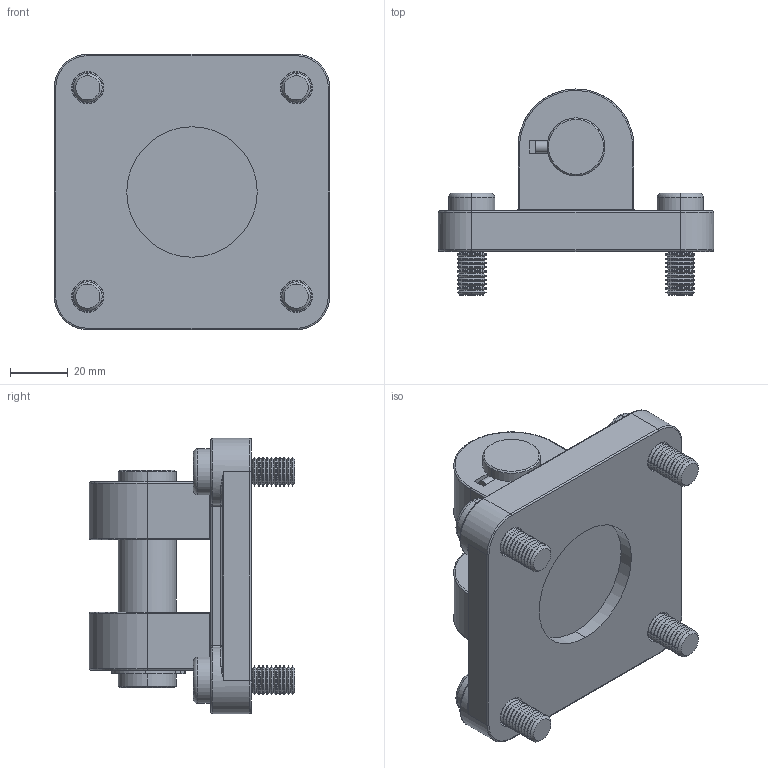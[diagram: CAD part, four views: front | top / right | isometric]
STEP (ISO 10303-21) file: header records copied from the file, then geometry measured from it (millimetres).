
FILE_DESCRIPTION (( 'STEP AP214' ), '1' );
FILE_NAME ('26334_2n.STEP', '2017-02-22T14:05:36', ( '' ), ( '' ), 'SwSTEP 2.0', 'SolidWorks 2016', '' );
FILE_SCHEMA (( 'AUTOMOTIVE_DESIGN' ));
Length unit declared in the file: millimetre
Products named in the file (1): 26334_2n
Bounding box: 95 x 71 x 95 mm (x, y, z)
Volume: 184381.3 mm3; surface area: 49856.5 mm2
Topology: 8 solids, 8 shells, 611 faces, 1529 edges, 934 vertices
Faces by surface type: cone 244, cylinder 211, plane 102, bspline 38, torus 16
Entity records: 26067 total; most frequent: CARTESIAN_POINT 4285, DIRECTION 3453, ORIENTED_EDGE 3026, EDGE_CURVE 1513, AXIS2_PLACEMENT_3D 1418, VERTEX_POINT 934, CIRCLE 844, EDGE_LOOP 643
